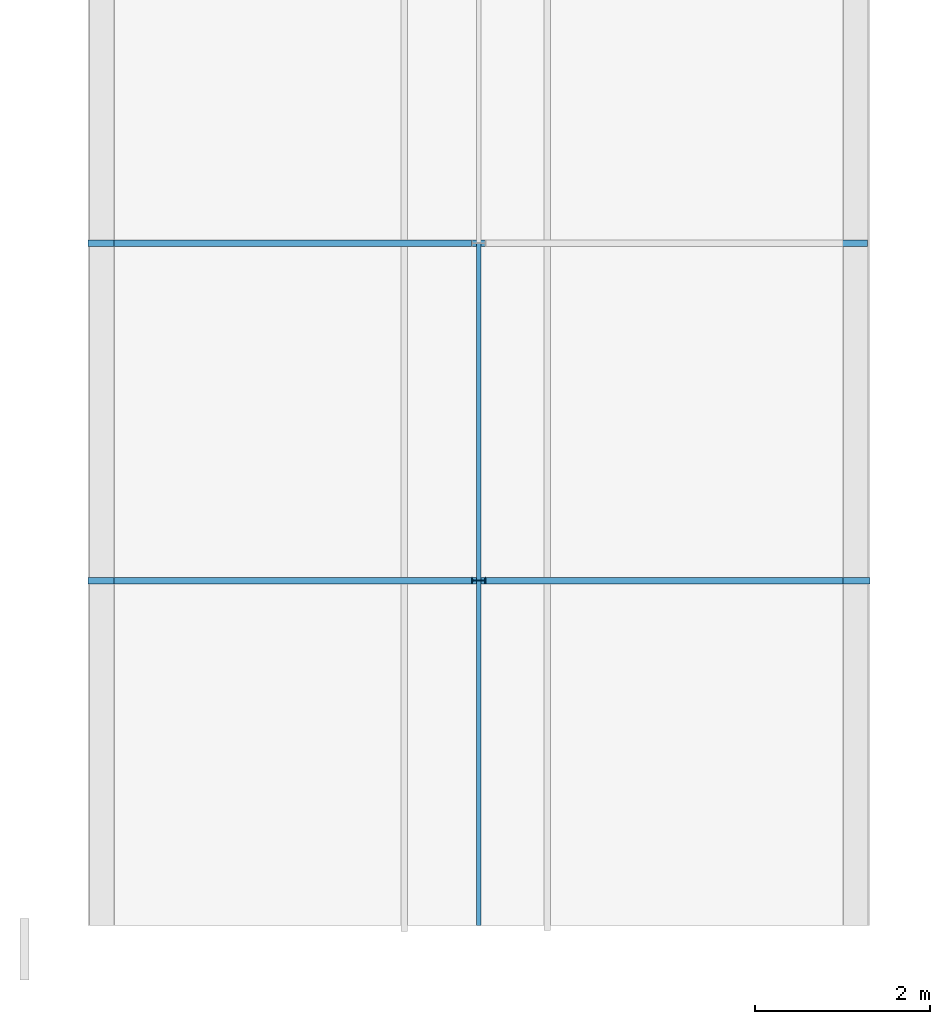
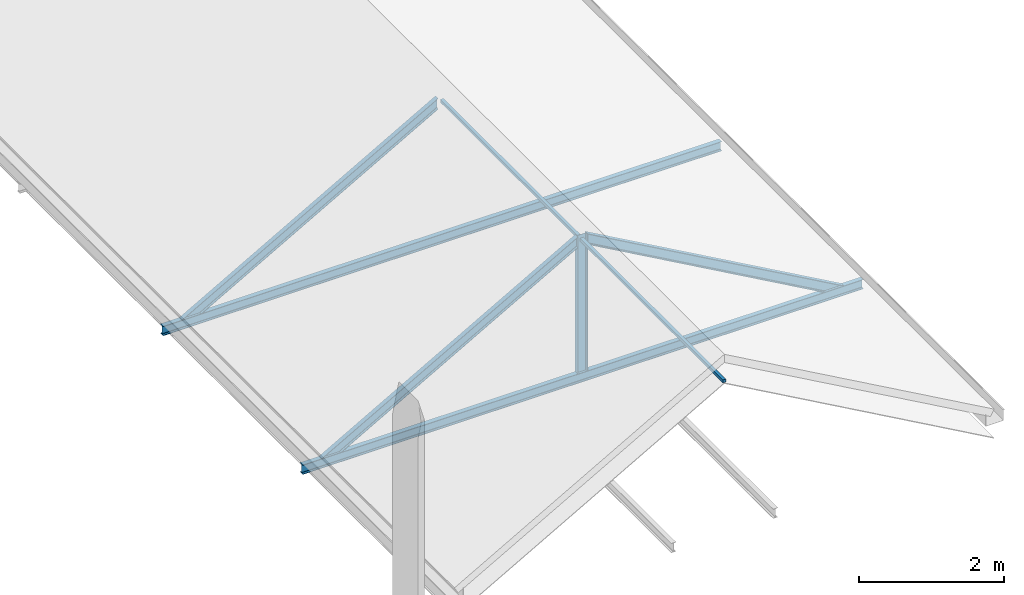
# One storey, part 2 of 10: 7 beams, 1 member, 2 elements without a shape of their own.
"""IFC2X3 building model written with IfcOpenShell, lengths in metres."""

from ifc_helpers import new_model, entity, si_unit, converted_unit, derived_unit, direction, frame, frame_2d, origin, place, context, subcontext, project, spatial, polyline, circle_curve, parameter, trimmed, segment, composite_curve, rectangle, outline, extrude, clip, halfspace, source, transform, mapped, material, type_object, type_shapes, element, aggregate, save


model = new_model("IFC2X3")

# Units and contexts
model_context = context("Model", 3, precision=1e-05, world=origin(), true_north=direction((6.12303176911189e-17, 1.0)))
body_context = subcontext(model_context, "Body", "Model", "MODEL_VIEW")
ifc_project = project(units=[si_unit("LENGTHUNIT", "METRE"), si_unit("AREAUNIT", "SQUARE_METRE"), si_unit("VOLUMEUNIT", "CUBIC_METRE"), converted_unit("PLANEANGLEUNIT", "DEGREE", entity("IfcRatioMeasure", 0.0174532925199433), si_unit("PLANEANGLEUNIT", "RADIAN"), dimensions=[0, 0, 0, 0, 0, 0, 0]), si_unit("MASSUNIT", "GRAM", prefix="KILO"), derived_unit("MASSDENSITYUNIT", [(si_unit("MASSUNIT", "GRAM", prefix="KILO"), 1), (si_unit("LENGTHUNIT", "METRE"), -3)]), derived_unit("MOMENTOFINERTIAUNIT", [(si_unit("LENGTHUNIT", "METRE"), 4)]), si_unit("TIMEUNIT", "SECOND"), si_unit("FREQUENCYUNIT", "HERTZ"), si_unit("THERMODYNAMICTEMPERATUREUNIT", "DEGREE_CELSIUS"), derived_unit("THERMALTRANSMITTANCEUNIT", [(si_unit("MASSUNIT", "GRAM", prefix="KILO"), 1), (si_unit("THERMODYNAMICTEMPERATUREUNIT", "KELVIN"), -1), (si_unit("TIMEUNIT", "SECOND"), -3)]), derived_unit("VOLUMETRICFLOWRATEUNIT", [(si_unit("LENGTHUNIT", "METRE"), 3), (si_unit("TIMEUNIT", "SECOND"), -1)]), si_unit("ELECTRICCURRENTUNIT", "AMPERE"), si_unit("ELECTRICVOLTAGEUNIT", "VOLT"), si_unit("POWERUNIT", "WATT"), si_unit("FORCEUNIT", "NEWTON", prefix="KILO"), si_unit("ILLUMINANCEUNIT", "LUX"), si_unit("LUMINOUSFLUXUNIT", "LUMEN"), si_unit("LUMINOUSINTENSITYUNIT", "CANDELA"), derived_unit("USERDEFINED", [(si_unit("MASSUNIT", "GRAM", prefix="KILO"), -1), (si_unit("LENGTHUNIT", "METRE"), -2), (si_unit("TIMEUNIT", "SECOND"), 3), (si_unit("LUMINOUSFLUXUNIT", "LUMEN"), 1)]), derived_unit("LINEARVELOCITYUNIT", [(si_unit("LENGTHUNIT", "METRE"), 1), (si_unit("TIMEUNIT", "SECOND"), -1)]), si_unit("PRESSUREUNIT", "PASCAL"), derived_unit("USERDEFINED", [(si_unit("LENGTHUNIT", "METRE"), -2), (si_unit("MASSUNIT", "GRAM", prefix="KILO"), 1), (si_unit("TIMEUNIT", "SECOND"), -2)]), derived_unit("LINEARFORCEUNIT", [(si_unit("MASSUNIT", "GRAM", prefix="KILO"), 1), (si_unit("LENGTHUNIT", "METRE"), 1), (si_unit("TIMEUNIT", "SECOND"), -2), (si_unit("LENGTHUNIT", "METRE"), -1)]), derived_unit("PLANARFORCEUNIT", [(si_unit("MASSUNIT", "GRAM", prefix="KILO"), 1), (si_unit("LENGTHUNIT", "METRE"), 1), (si_unit("TIMEUNIT", "SECOND"), -2), (si_unit("LENGTHUNIT", "METRE"), -2)])], contexts=[model_context])

# Site, building, storey
site_placement = place(None, origin())
site = spatial("IfcSite", under=ifc_project, at=site_placement, Name="Superficie", CompositionType="ELEMENT")
building_placement = place(site_placement, origin())
building = spatial("IfcBuilding", under=site, at=building_placement, Name="Telegestiones", CompositionType="ELEMENT")
storey_placement = place(building_placement, frame((0.0, 0.0, 13.23)))
storey = spatial("IfcBuildingStorey", under=building, at=storey_placement, Name="Nivel 3_SUP", CompositionType="ELEMENT", Elevation=13.23)

# Assembly, beams
assembly_1_placement = place(storey_placement, origin())
assembly_1 = element("IfcElementAssembly", 1, at=assembly_1_placement, inside=storey, Name="EST-CER-Hi:Estándar", ObjectType="EST-CER-Hi:Estándar", AssemblyPlace="NOTDEFINED", PredefinedType="TRUSS")
ifc_material_1 = material(Name="Metal - Acero - 345 MPa")
beam_type_1 = type_object("IfcBeamType", Name="IPN - Secciones en I con alas cónicas:IPN 160", PredefinedType="NOTDEFINED")
beam_1_placement = place(assembly_1_placement, frame((6.03348379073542, -1.86339277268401, 0.070000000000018)))
beam_1 = element("IfcBeam", 2, at=beam_1_placement, type_object=beam_type_1, material=ifc_material_1, Name="IPN - Secciones en I con alas cónicas:IPN 160", ObjectType="IPN - Secciones en I con alas cónicas:IPN 160", context=body_context, shape_type="SweptSolid", body=[
    extrude(outline(composite_curve([segment(polyline([(0.0763950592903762, -0.0370000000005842), (0.0799999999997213, -0.0370000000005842)]), True, "CONTINUOUS"), segment(polyline([(0.0799999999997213, -0.0370000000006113), (0.080000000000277, 0.0369999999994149)]), True, "CONTINUOUS"), segment(polyline([(0.080000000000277, 0.0369999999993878), (0.0763950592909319, 0.036999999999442)]), True, "CONTINUOUS"), segment(trimmed(circle_curve(frame_2d((0.0763950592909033, 0.0331999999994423), x_axis=(0.0, 1.0)), 0.00379999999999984), [parameter(0.0)], [parameter(82.0303896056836)], True, "PARAMETER"), True, "CONTINUOUS"), segment(polyline([(0.0726317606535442, 0.0337268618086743), (0.0691107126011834, 0.00857651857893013)]), True, "CONTINUOUS"), segment(trimmed(circle_curve(frame_2d((0.0628715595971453, 0.00944999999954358), x_axis=(0.990341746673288, -0.138647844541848)), 0.00629999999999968), [parameter(277.969610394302)], [parameter(0.0)], True, "PARAMETER"), False, "CONTINUOUS"), segment(polyline([(0.0628715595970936, 0.00314999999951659), (-0.0628715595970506, 0.00315000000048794)]), True, "CONTINUOUS"), segment(trimmed(circle_curve(frame_2d((-0.0628715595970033, 0.00945000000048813), x_axis=(0.0, -1.0)), 0.00629999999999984), [parameter(277.969610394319)], [parameter(0.0)], True, "PARAMETER"), False, "CONTINUOUS"), segment(polyline([(-0.0691107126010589, 0.00857651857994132), (-0.0726317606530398, 0.033726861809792)]), True, "CONTINUOUS"), segment(trimmed(circle_curve(frame_2d((-0.0763950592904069, 0.0332000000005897), x_axis=(0.990341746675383, 0.138647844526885)), 0.00379999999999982), [parameter(0.0)], [parameter(82.0303896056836)], True, "PARAMETER"), True, "CONTINUOUS"), segment(polyline([(-0.0763950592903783, 0.0370000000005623), (-0.0799999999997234, 0.0370000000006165)]), True, "CONTINUOUS"), segment(polyline([(-0.0799999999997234, 0.0370000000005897), (-0.0800000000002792, -0.0369999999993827)]), True, "CONTINUOUS"), segment(polyline([(-0.0800000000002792, -0.0369999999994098), (-0.076395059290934, -0.0369999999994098)]), True, "CONTINUOUS"), segment(trimmed(circle_curve(frame_2d((-0.0763950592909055, -0.0331999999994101), x_axis=(0.0, -1.0)), 0.00379999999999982), [parameter(0.0)], [parameter(82.0303896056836)], True, "PARAMETER"), True, "CONTINUOUS"), segment(polyline([(-0.0726317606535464, -0.0337268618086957), (-0.0691107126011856, -0.00857651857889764)]), True, "CONTINUOUS"), segment(trimmed(circle_curve(frame_2d((-0.0628715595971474, -0.00944999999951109), x_axis=(-0.990341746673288, 0.138647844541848)), 0.00629999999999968), [parameter(277.969610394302)], [parameter(0.0)], True, "PARAMETER"), False, "CONTINUOUS"), segment(polyline([(-0.062871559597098, -0.00314999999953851), (0.0628715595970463, -0.00315000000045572)]), True, "CONTINUOUS"), segment(trimmed(circle_curve(frame_2d((0.062871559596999, -0.00945000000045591), x_axis=(0.0, 1.0)), 0.00630000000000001), [parameter(277.969610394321)], [parameter(0.0)], True, "PARAMETER"), False, "CONTINUOUS"), segment(polyline([(0.0691107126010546, -0.0085765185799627), (0.0726317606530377, -0.0337268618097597)]), True, "CONTINUOUS"), segment(trimmed(circle_curve(frame_2d((0.0763950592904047, -0.0332000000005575), x_axis=(-0.990341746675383, -0.138647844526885)), 0.00379999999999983), [parameter(0.0)], [parameter(82.0303896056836)], True, "PARAMETER"), True, "CONTINUOUS")], self_intersect=False)), frame((0.0, 0.0, 0.00999999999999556), z_axis=(1.0, 0.0, 0.0), x_axis=(0.0, 0.0, -1.0)), (0.0, 0.0, 1.0), 8.93099688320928),
])
beam_2_placement = place(assembly_1_placement, frame((10.4934837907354, -1.86339277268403, 2.42000000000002), z_axis=(0.491850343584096, 0.0, 0.870679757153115), x_axis=(0.870679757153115, 0.0, -0.491850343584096)))
beam_2 = element("IfcBeam", 3, at=beam_2_placement, type_object=beam_type_1, material=ifc_material_1, Name="IPN - Secciones en I con alas cónicas:IPN 160", ObjectType="IPN - Secciones en I con alas cónicas:IPN 160", context=body_context, shape_type="SweptSolid", body=[
    clip(clip(extrude(outline(composite_curve([segment(polyline([(-0.0799999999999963, -0.037000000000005), (-0.076395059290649, -0.037000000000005)]), True, "CONTINUOUS"), segment(trimmed(circle_curve(frame_2d((-0.0763950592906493, -0.0332000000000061), x_axis=(0.0, -1.0)), 0.00379999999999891), [parameter(0.0)], [parameter(82.0303896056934)], True, "PARAMETER"), True, "CONTINUOUS"), segment(polyline([(-0.0726317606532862, -0.033726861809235), (-0.0691107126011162, -0.00857651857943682)]), True, "CONTINUOUS"), segment(trimmed(circle_curve(frame_2d((-0.0628715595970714, -0.00945000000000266), x_axis=(-0.990341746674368, 0.138647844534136)), 0.00629999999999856), [parameter(277.96961039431)], [parameter(0.0)], True, "PARAMETER"), False, "CONTINUOUS"), segment(polyline([(-0.0628715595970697, -0.00315000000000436), (0.0628715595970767, -0.00314999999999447)]), True, "CONTINUOUS"), segment(trimmed(circle_curve(frame_2d((0.0628715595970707, -0.00944999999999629), x_axis=(0.0, 1.0)), 0.0063000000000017), [parameter(277.969610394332)], [parameter(0.0)], True, "PARAMETER"), False, "CONTINUOUS"), segment(polyline([(0.0691107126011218, -0.0085765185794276), (0.0726317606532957, -0.033726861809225)]), True, "CONTINUOUS"), segment(trimmed(circle_curve(frame_2d((0.0763950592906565, -0.0331999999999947), x_axis=(-0.990341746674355, -0.138647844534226)), 0.00379999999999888), [parameter(0.0)], [parameter(82.0303896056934)], True, "PARAMETER"), True, "CONTINUOUS"), segment(polyline([(0.076395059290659, -0.0369999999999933), (0.0800000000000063, -0.0369999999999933)]), True, "CONTINUOUS"), segment(polyline([(0.0800000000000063, -0.0369999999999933), (0.0800000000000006, 0.0370000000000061)]), True, "CONTINUOUS"), segment(polyline([(0.0800000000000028, 0.0370000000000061), (0.0763950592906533, 0.0370000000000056)]), True, "CONTINUOUS"), segment(trimmed(circle_curve(frame_2d((0.0763950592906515, 0.0332000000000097), x_axis=(0.0, 1.0)), 0.00379999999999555), [parameter(0.0)], [parameter(82.0303896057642)], True, "PARAMETER"), True, "CONTINUOUS"), segment(polyline([(0.0726317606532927, 0.0337268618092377), (0.0691107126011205, 0.00857651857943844)]), True, "CONTINUOUS"), segment(trimmed(circle_curve(frame_2d((0.0628715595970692, 0.00945000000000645), x_axis=(0.990341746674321, -0.138647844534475)), 0.0063000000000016), [parameter(277.969610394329)], [parameter(0.0)], True, "PARAMETER"), False, "CONTINUOUS"), segment(polyline([(0.0628715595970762, 0.00315000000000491), (-0.0628715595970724, 0.00314999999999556)]), True, "CONTINUOUS"), segment(trimmed(circle_curve(frame_2d((-0.0628715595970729, 0.00944999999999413), x_axis=(0.0, -1.0)), 0.0062999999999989), [parameter(277.969610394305)], [parameter(0.0)], True, "PARAMETER"), False, "CONTINUOUS"), segment(polyline([(-0.0691107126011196, 0.00857651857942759), (-0.0726317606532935, 0.0337268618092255)]), True, "CONTINUOUS"), segment(trimmed(circle_curve(frame_2d((-0.0763950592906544, 0.0331999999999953), x_axis=(0.990341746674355, 0.138647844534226)), 0.00379999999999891), [parameter(0.0)], [parameter(82.0303896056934)], True, "PARAMETER"), True, "CONTINUOUS"), segment(polyline([(-0.0763950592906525, 0.0369999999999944), (-0.080000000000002, 0.0369999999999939)]), True, "CONTINUOUS"), segment(polyline([(-0.080000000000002, 0.0369999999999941), (-0.0799999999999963, -0.0370000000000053)]), True, "CONTINUOUS")], self_intersect=False)), frame((0.0466899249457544, 0.0, 0.0), z_axis=(1.0, 0.0, 0.0), x_axis=(0.0, 0.0, -1.0)), (0.0, 0.0, 1.0), 4.68982070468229), halfspace(frame((-2.77164994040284, -0.0370000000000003, -4.16138878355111), z_axis=(0.491850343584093, 0.0, -0.870679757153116), x_axis=(0.870679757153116, 0.0, 0.491850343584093)), False)), halfspace(frame((1.1812361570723, 0.037, -1.92838822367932), z_axis=(-0.870679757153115, 0.0, -0.491850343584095), x_axis=(-0.491850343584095, 0.0, 0.870679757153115)), False)),
])
beam_3_placement = place(assembly_1_placement, frame((6.33348379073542, -1.86339277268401, 0.0700000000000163), z_axis=(-0.491850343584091, 0.0, 0.870679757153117), x_axis=(0.870679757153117, 0.0, 0.491850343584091)))
beam_3 = element("IfcBeam", 4, at=beam_3_placement, type_object=beam_type_1, material=ifc_material_1, Name="IPN - Secciones en I con alas cónicas:IPN 160", ObjectType="IPN - Secciones en I con alas cónicas:IPN 160", context=body_context, shape_type="SweptSolid", body=[
    clip(clip(extrude(outline(composite_curve([segment(polyline([(0.0763950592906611, -0.0369999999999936), (0.0800000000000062, -0.0369999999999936)]), True, "CONTINUOUS"), segment(polyline([(0.0800000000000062, -0.0369999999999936), (0.0800000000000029, 0.0370000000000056)]), True, "CONTINUOUS"), segment(polyline([(0.0800000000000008, 0.0370000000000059), (0.0763950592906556, 0.0370000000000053)]), True, "CONTINUOUS"), segment(trimmed(circle_curve(frame_2d((0.0763950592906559, 0.0332000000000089), x_axis=(0.0, 1.0)), 0.00379999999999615), [parameter(0.0)], [parameter(82.0303896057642)], True, "PARAMETER"), True, "CONTINUOUS"), segment(polyline([(0.0726317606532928, 0.0337268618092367), (0.0691107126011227, 0.00857651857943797)]), True, "CONTINUOUS"), segment(trimmed(circle_curve(frame_2d((0.0628715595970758, 0.00945000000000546), x_axis=(0.990341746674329, -0.13864784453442)), 0.0063000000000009), [parameter(277.969610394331)], [parameter(0.0)], True, "PARAMETER"), False, "CONTINUOUS"), segment(polyline([(0.0628715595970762, 0.00315000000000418), (-0.0628715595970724, 0.0031499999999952)]), True, "CONTINUOUS"), segment(trimmed(circle_curve(frame_2d((-0.0628715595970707, 0.00944999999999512), x_axis=(0.0, -1.0)), 0.00629999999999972), [parameter(277.969610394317)], [parameter(0.0)], True, "PARAMETER"), False, "CONTINUOUS"), segment(polyline([(-0.0691107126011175, 0.00857651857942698), (-0.0726317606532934, 0.0337268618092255)]), True, "CONTINUOUS"), segment(trimmed(circle_curve(frame_2d((-0.0763950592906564, 0.0331999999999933), x_axis=(0.990341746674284, 0.138647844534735)), 0.00380000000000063), [parameter(0.0)], [parameter(82.0303896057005)], True, "PARAMETER"), True, "CONTINUOUS"), segment(polyline([(-0.0763950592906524, 0.0369999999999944), (-0.0799999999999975, 0.0369999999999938)]), True, "CONTINUOUS"), segment(polyline([(-0.0799999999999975, 0.0369999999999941), (-0.0799999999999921, -0.0370000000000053)]), True, "CONTINUOUS"), segment(polyline([(-0.0799999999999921, -0.0370000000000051), (-0.076395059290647, -0.0370000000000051)]), True, "CONTINUOUS"), segment(trimmed(circle_curve(frame_2d((-0.0763950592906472, -0.0332000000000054), x_axis=(0.0, -1.0)), 0.00379999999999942), [parameter(0.0)], [parameter(82.0303896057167)], True, "PARAMETER"), True, "CONTINUOUS"), segment(polyline([(-0.0726317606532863, -0.0337268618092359), (-0.0691107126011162, -0.00857651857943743)]), True, "CONTINUOUS"), segment(trimmed(circle_curve(frame_2d((-0.0628715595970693, -0.00945000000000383), x_axis=(-0.99034174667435, 0.138647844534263)), 0.00629999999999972), [parameter(277.969610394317)], [parameter(0.0)], True, "PARAMETER"), False, "CONTINUOUS"), segment(polyline([(-0.0628715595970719, -0.00315000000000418), (0.0628715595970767, -0.00314999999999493)]), True, "CONTINUOUS"), segment(trimmed(circle_curve(frame_2d((0.0628715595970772, -0.00944999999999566), x_axis=(0.0, 1.0)), 0.00630000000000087), [parameter(277.969610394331)], [parameter(0.0)], True, "PARAMETER"), False, "CONTINUOUS"), segment(polyline([(0.069110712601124, -0.00857651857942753), (0.0726317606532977, -0.0337268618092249)]), True, "CONTINUOUS"), segment(trimmed(circle_curve(frame_2d((0.0763950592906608, -0.0331999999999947), x_axis=(-0.990341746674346, -0.138647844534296)), 0.00379999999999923), [parameter(0.0)], [parameter(82.0303896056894)], True, "PARAMETER"), True, "CONTINUOUS")], self_intersect=False)), frame((0.0413654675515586, 0.0, 0.0), z_axis=(1.0, 0.0, 0.0), x_axis=(0.0, 0.0, -1.0)), (0.0, 0.0, 1.0), 4.68982070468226), halfspace(frame((-0.216937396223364, -0.0370000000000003, 0.225916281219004), z_axis=(-0.491850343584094, 0.0, -0.870679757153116), x_axis=(0.870679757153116, 0.0, -0.491850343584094)), False)), halfspace(frame((3.59663994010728, -0.0369999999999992, -1.92838822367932), z_axis=(0.870679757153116, 0.0, -0.491850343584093), x_axis=(0.491850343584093, 0.0, 0.870679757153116)), False)),
])

assembly_2_placement = place(storey_placement, origin())
assembly_2 = element("IfcElementAssembly", 5, at=assembly_2_placement, inside=storey, Name="EST-CER-Hi:Estándar", ObjectType="EST-CER-Hi:Estándar", AssemblyPlace="NOTDEFINED", PredefinedType="TRUSS")
beam_4_placement = place(assembly_2_placement, frame((6.03348379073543, 1.98960722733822, 0.070000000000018)))
beam_4 = element("IfcBeam", 6, at=beam_4_placement, type_object=beam_type_1, material=ifc_material_1, Name="IPN - Secciones en I con alas cónicas:IPN 160", ObjectType="IPN - Secciones en I con alas cónicas:IPN 160", context=body_context, shape_type="SweptSolid", body=[
    extrude(outline(composite_curve([segment(polyline([(0.0763950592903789, -0.0370000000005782), (0.0799999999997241, -0.0370000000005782)]), True, "CONTINUOUS"), segment(polyline([(0.0799999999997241, -0.0370000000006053), (0.0800000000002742, 0.0369999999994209)]), True, "CONTINUOUS"), segment(polyline([(0.0800000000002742, 0.0369999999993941), (0.0763950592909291, 0.0369999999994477)]), True, "CONTINUOUS"), segment(trimmed(circle_curve(frame_2d((0.0763950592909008, 0.033199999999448), x_axis=(0.0, 1.0)), 0.00379999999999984), [parameter(0.0)], [parameter(82.0303896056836)], True, "PARAMETER"), True, "CONTINUOUS"), segment(polyline([(0.0726317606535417, 0.0337268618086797), (0.0691107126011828, 0.00857651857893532)]), True, "CONTINUOUS"), segment(trimmed(circle_curve(frame_2d((0.0628715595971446, 0.0094499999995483), x_axis=(0.990341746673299, -0.138647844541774)), 0.00629999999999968), [parameter(277.969610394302)], [parameter(0.0)], True, "PARAMETER"), False, "CONTINUOUS"), segment(polyline([(0.0628715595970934, 0.00314999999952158), (-0.0628715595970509, 0.00315000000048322)]), True, "CONTINUOUS"), segment(trimmed(circle_curve(frame_2d((-0.0628715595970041, 0.00945000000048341), x_axis=(0.0, -1.0)), 0.00629999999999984), [parameter(277.969610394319)], [parameter(0.0)], True, "PARAMETER"), False, "CONTINUOUS"), segment(polyline([(-0.0691107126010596, 0.00857651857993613), (-0.0726317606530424, 0.0337268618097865)]), True, "CONTINUOUS"), segment(trimmed(circle_curve(frame_2d((-0.0763950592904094, 0.033200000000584), x_axis=(0.990341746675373, 0.13864784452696)), 0.00379999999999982), [parameter(0.0)], [parameter(82.0303896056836)], True, "PARAMETER"), True, "CONTINUOUS"), segment(polyline([(-0.0763950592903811, 0.0370000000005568), (-0.0799999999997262, 0.0370000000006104)]), True, "CONTINUOUS"), segment(polyline([(-0.0799999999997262, 0.0370000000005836), (-0.0800000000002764, -0.0369999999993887)]), True, "CONTINUOUS"), segment(polyline([(-0.0800000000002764, -0.0369999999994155), (-0.0763950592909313, -0.0369999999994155)]), True, "CONTINUOUS"), segment(trimmed(circle_curve(frame_2d((-0.076395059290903, -0.0331999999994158), x_axis=(0.0, -1.0)), 0.00379999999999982), [parameter(0.0)], [parameter(82.0303896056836)], True, "PARAMETER"), True, "CONTINUOUS"), segment(polyline([(-0.0726317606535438, -0.0337268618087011), (-0.0691107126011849, -0.00857651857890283)]), True, "CONTINUOUS"), segment(trimmed(circle_curve(frame_2d((-0.0628715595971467, -0.00944999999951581), x_axis=(-0.990341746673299, 0.138647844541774)), 0.00629999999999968), [parameter(277.969610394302)], [parameter(0.0)], True, "PARAMETER"), False, "CONTINUOUS"), segment(polyline([(-0.0628715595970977, -0.00314999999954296), (0.0628715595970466, -0.003150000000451)]), True, "CONTINUOUS"), segment(trimmed(circle_curve(frame_2d((0.0628715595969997, -0.00945000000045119), x_axis=(0.0, 1.0)), 0.00630000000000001), [parameter(277.969610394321)], [parameter(0.0)], True, "PARAMETER"), False, "CONTINUOUS"), segment(polyline([(0.0691107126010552, -0.00857651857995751), (0.0726317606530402, -0.0337268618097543)]), True, "CONTINUOUS"), segment(trimmed(circle_curve(frame_2d((0.0763950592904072, -0.0332000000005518), x_axis=(-0.990341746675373, -0.13864784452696)), 0.00379999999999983), [parameter(0.0)], [parameter(82.0303896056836)], True, "PARAMETER"), True, "CONTINUOUS")], self_intersect=False)), frame((0.0, 0.0, 0.00999999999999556), z_axis=(1.0, 0.0, 0.0), x_axis=(0.0, 0.0, -1.0)), (0.0, 0.0, 1.0), 8.89907373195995),
])
beam_5_placement = place(assembly_2_placement, frame((6.33348379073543, 1.98960722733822, 0.0700000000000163), z_axis=(-0.491850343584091, 0.0, 0.870679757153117), x_axis=(0.870679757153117, 0.0, 0.491850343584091)))
beam_5 = element("IfcBeam", 7, at=beam_5_placement, type_object=beam_type_1, material=ifc_material_1, Name="IPN - Secciones en I con alas cónicas:IPN 160", ObjectType="IPN - Secciones en I con alas cónicas:IPN 160", context=body_context, shape_type="SweptSolid", body=[
    clip(clip(extrude(outline(composite_curve([segment(polyline([(0.0763950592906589, -0.0369999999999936), (0.0800000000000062, -0.0369999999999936)]), True, "CONTINUOUS"), segment(polyline([(0.0800000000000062, -0.0369999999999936), (0.0800000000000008, 0.0370000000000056)]), True, "CONTINUOUS"), segment(polyline([(0.0800000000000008, 0.0370000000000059), (0.0763950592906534, 0.0370000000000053)]), True, "CONTINUOUS"), segment(trimmed(circle_curve(frame_2d((0.0763950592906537, 0.0332000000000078), x_axis=(0.0, 1.0)), 0.00379999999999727), [parameter(0.0)], [parameter(82.0303896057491)], True, "PARAMETER"), True, "CONTINUOUS"), segment(polyline([(0.0726317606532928, 0.0337268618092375), (0.0691107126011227, 0.00857651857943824)]), True, "CONTINUOUS"), segment(trimmed(circle_curve(frame_2d((0.0628715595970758, 0.00945000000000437), x_axis=(0.990341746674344, -0.138647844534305)), 0.00629999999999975), [parameter(277.969610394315)], [parameter(0.0)], True, "PARAMETER"), False, "CONTINUOUS"), segment(polyline([(0.0628715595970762, 0.00315000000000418), (-0.0628715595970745, 0.0031499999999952)]), True, "CONTINUOUS"), segment(trimmed(circle_curve(frame_2d((-0.0628715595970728, 0.00944999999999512), x_axis=(0.0, -1.0)), 0.0062999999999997), [parameter(277.969610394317)], [parameter(0.0)], True, "PARAMETER"), False, "CONTINUOUS"), segment(polyline([(-0.0691107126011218, 0.0085765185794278), (-0.0726317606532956, 0.0337268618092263)]), True, "CONTINUOUS"), segment(trimmed(circle_curve(frame_2d((-0.0763950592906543, 0.0331999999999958), x_axis=(0.990341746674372, 0.138647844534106)), 0.00379999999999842), [parameter(0.0)], [parameter(82.0303896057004)], True, "PARAMETER"), True, "CONTINUOUS"), segment(polyline([(-0.0763950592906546, 0.0369999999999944), (-0.0799999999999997, 0.0369999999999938)]), True, "CONTINUOUS"), segment(polyline([(-0.0799999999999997, 0.0369999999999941), (-0.0799999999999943, -0.0370000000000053)]), True, "CONTINUOUS"), segment(polyline([(-0.0799999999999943, -0.0370000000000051), (-0.0763950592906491, -0.0370000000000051)]), True, "CONTINUOUS"), segment(trimmed(circle_curve(frame_2d((-0.0763950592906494, -0.0332000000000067), x_axis=(0.0, -1.0)), 0.00379999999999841), [parameter(0.0)], [parameter(82.0303896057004)], True, "PARAMETER"), True, "CONTINUOUS"), segment(polyline([(-0.0726317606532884, -0.0337268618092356), (-0.0691107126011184, -0.00857651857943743)]), True, "CONTINUOUS"), segment(trimmed(circle_curve(frame_2d((-0.0628715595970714, -0.00945000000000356), x_axis=(-0.990341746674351, 0.138647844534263)), 0.00629999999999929), [parameter(277.969610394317)], [parameter(0.0)], True, "PARAMETER"), False, "CONTINUOUS"), segment(polyline([(-0.0628715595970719, -0.00315000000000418), (0.0628715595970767, -0.00314999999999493)]), True, "CONTINUOUS"), segment(trimmed(circle_curve(frame_2d((0.0628715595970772, -0.00944999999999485), x_axis=(0.0, 1.0)), 0.00630000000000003), [parameter(277.969610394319)], [parameter(0.0)], True, "PARAMETER"), False, "CONTINUOUS"), segment(polyline([(0.069110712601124, -0.00857651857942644), (0.0726317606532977, -0.0337268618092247)]), True, "CONTINUOUS"), segment(trimmed(circle_curve(frame_2d((0.0763950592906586, -0.0331999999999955), x_axis=(-0.990341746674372, -0.138647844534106)), 0.00379999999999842), [parameter(0.0)], [parameter(82.0303896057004)], True, "PARAMETER"), True, "CONTINUOUS")], self_intersect=False)), frame((0.0413654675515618, 0.0, 0.0), z_axis=(1.0, 0.0, 0.0), x_axis=(0.0, 0.0, -1.0)), (0.0, 0.0, 1.0), 4.68982070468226), halfspace(frame((-0.216937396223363, -0.0370000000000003, 0.225916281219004), z_axis=(-0.491850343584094, 0.0, -0.870679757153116), x_axis=(0.870679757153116, 0.0, -0.491850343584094)), False)), halfspace(frame((3.59663994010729, -0.0369999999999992, -1.92838822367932), z_axis=(0.870679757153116, 0.0, -0.491850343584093), x_axis=(0.491850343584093, 0.0, 0.870679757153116)), False)),
])
aggregate(assembly_2, [beam_4, beam_5])

# Member
member_type = type_object("IfcMemberType", Name="IPN - Secciones en I con alas cónicas:IPN 160", PredefinedType="BRACE", material=ifc_material_1)
shared_shape = source(origin(), body_context, "Body", "SweptSolid", [
    extrude(outline(composite_curve([segment(polyline([(-0.0369999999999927, -0.0800000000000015), (0.0370000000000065, -0.0800000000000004)]), True, "CONTINUOUS"), segment(polyline([(0.0370000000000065, -0.079999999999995), (0.0370000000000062, -0.076395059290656)]), True, "CONTINUOUS"), segment(trimmed(circle_curve(frame_2d((0.0332000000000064, -0.0763950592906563), x_axis=(1.0, 0.0)), 0.00379999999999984), [parameter(0.0)], [parameter(82.0303896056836)], True, "PARAMETER"), True, "CONTINUOUS"), segment(polyline([(0.0337268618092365, -0.0726317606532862), (0.00857651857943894, -0.0691107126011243)]), True, "CONTINUOUS"), segment(trimmed(circle_curve(frame_2d((0.00945000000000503, -0.0628715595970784), x_axis=(-0.138647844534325, -0.990341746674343)), 0.00629999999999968), [parameter(277.969610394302)], [parameter(0.0)], True, "PARAMETER"), False, "CONTINUOUS"), segment(polyline([(0.00315000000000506, -0.0628715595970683), (0.00314999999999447, 0.0628715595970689)]), True, "CONTINUOUS"), segment(trimmed(circle_curve(frame_2d((0.00944999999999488, 0.0628715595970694), x_axis=(-1.0, 0.0)), 0.00630000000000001), [parameter(277.969610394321)], [parameter(0.0)], True, "PARAMETER"), False, "CONTINUOUS"), segment(polyline([(0.00857651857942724, 0.0691107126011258), (0.0337268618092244, 0.0726317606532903)]), True, "CONTINUOUS"), segment(trimmed(circle_curve(frame_2d((0.0331999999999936, 0.0763950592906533), x_axis=(0.138647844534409, -0.99034174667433)), 0.00379999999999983), [parameter(0.0)], [parameter(82.0303896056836)], True, "PARAMETER"), True, "CONTINUOUS"), segment(polyline([(0.0369999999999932, 0.0763950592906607), (0.0369999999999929, 0.0799999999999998)]), True, "CONTINUOUS"), segment(polyline([(0.0369999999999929, 0.0800000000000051), (-0.0370000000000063, 0.0799999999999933)]), True, "CONTINUOUS"), segment(polyline([(-0.0370000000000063, 0.0799999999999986), (-0.037000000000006, 0.0763950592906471)]), True, "CONTINUOUS"), segment(trimmed(circle_curve(frame_2d((-0.0332000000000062, 0.0763950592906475), x_axis=(-1.0, 0.0)), 0.00379999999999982), [parameter(0.0)], [parameter(82.0303896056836)], True, "PARAMETER"), True, "CONTINUOUS"), segment(polyline([(-0.0337268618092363, 0.0726317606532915), (-0.00857651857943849, 0.0691107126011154)]), True, "CONTINUOUS"), segment(trimmed(circle_curve(frame_2d((-0.00945000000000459, 0.0628715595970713), x_axis=(0.138647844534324, 0.990341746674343)), 0.00629999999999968), [parameter(277.969610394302)], [parameter(0.0)], True, "PARAMETER"), False, "CONTINUOUS"), segment(polyline([(-0.00315000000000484, 0.0628715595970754), (-0.00314999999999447, -0.062871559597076)]), True, "CONTINUOUS"), segment(trimmed(circle_curve(frame_2d((-0.00944999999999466, -0.0628715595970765), x_axis=(1.0, 0.0)), 0.00630000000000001), [parameter(277.969610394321)], [parameter(0.0)], True, "PARAMETER"), False, "CONTINUOUS"), segment(polyline([(-0.00857651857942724, -0.0691107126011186), (-0.0337268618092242, -0.0726317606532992)]), True, "CONTINUOUS"), segment(trimmed(circle_curve(frame_2d((-0.0331999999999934, -0.0763950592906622), x_axis=(-0.138647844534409, 0.99034174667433)), 0.00379999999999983), [parameter(0.0)], [parameter(82.0303896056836)], True, "PARAMETER"), True, "CONTINUOUS"), segment(polyline([(-0.036999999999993, -0.0763950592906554), (-0.0369999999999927, -0.0800000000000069)]), True, "CONTINUOUS")], self_intersect=False)), frame((10.4934837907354, -1.86339277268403, 13.39), z_axis=(0.0, 0.0, 1.0), x_axis=(0.0, -1.0, 0.0)), (0.0, 0.0, 1.0), 2.308),
])
type_shapes(member_type, [shared_shape])
member_placement = place(assembly_1_placement, frame((0.0, 0.0, -13.23)))
member = element("IfcMember", 8, at=member_placement, type_object=member_type, Name="IPN - Secciones en I con alas cónicas:IPN 160", ObjectType="IPN - Secciones en I con alas cónicas:IPN 160", context=body_context, shape_type="MappedRepresentation", body=[
    mapped(shared_shape, transform((0.0, 0.0, 0.0), scale=1.0)),
])

aggregate(assembly_1, [beam_1, beam_2, member, beam_3])

# Beams
ifc_material_2 = material(Name="Madera - Madera de construcción")
beam_type_2 = type_object("IfcBeamType", Name="Madera:50x50mm", PredefinedType="NOTDEFINED")
beam_6_placement = place(storey_placement, frame((10.4934837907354, -1.86339277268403, 2.41), z_axis=(0.0, 0.0, 1.0), x_axis=(0.0, 1.0, 0.0)))
element("IfcBeam", 9, at=beam_6_placement, inside=storey, type_object=beam_type_2, material=ifc_material_2, Name="Madera:50x50mm", ObjectType="Madera:50x50mm", context=body_context, shape_type="SweptSolid", body=[
    extrude(rectangle(XDim=0.0499999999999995, YDim=0.0500000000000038, at=frame_2d((-1.08246744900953e-15, 1.08246744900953e-15), x_axis=(1.0, 0.0))), frame((0.00100000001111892, 0.0, -0.025000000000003), z_axis=(1.0, 0.0, 0.0), x_axis=(0.0, 0.0, -1.0)), (0.0, 0.0, 1.0), 3.852),
])
beam_7_placement = place(storey_placement, frame((10.4934837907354, -5.97639277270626, 2.41), z_axis=(0.0, 0.0, 1.0), x_axis=(0.0, 1.0, 0.0)))
element("IfcBeam", 10, at=beam_7_placement, inside=storey, type_object=beam_type_2, material=ifc_material_2, Name="Madera:50x50mm", ObjectType="Madera:50x50mm", context=body_context, shape_type="SweptSolid", body=[
    extrude(rectangle(XDim=0.0499999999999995, YDim=0.0500000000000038, at=frame_2d((-1.08246744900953e-15, 1.08246744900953e-15), x_axis=(1.0, 0.0))), frame((0.170025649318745, 0.0, -0.025000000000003), z_axis=(1.0, 0.0, 0.0), x_axis=(0.0, 0.0, -1.0)), (0.0, 0.0, 1.0), 3.94197435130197),
])

save(model, "model.ifc")
